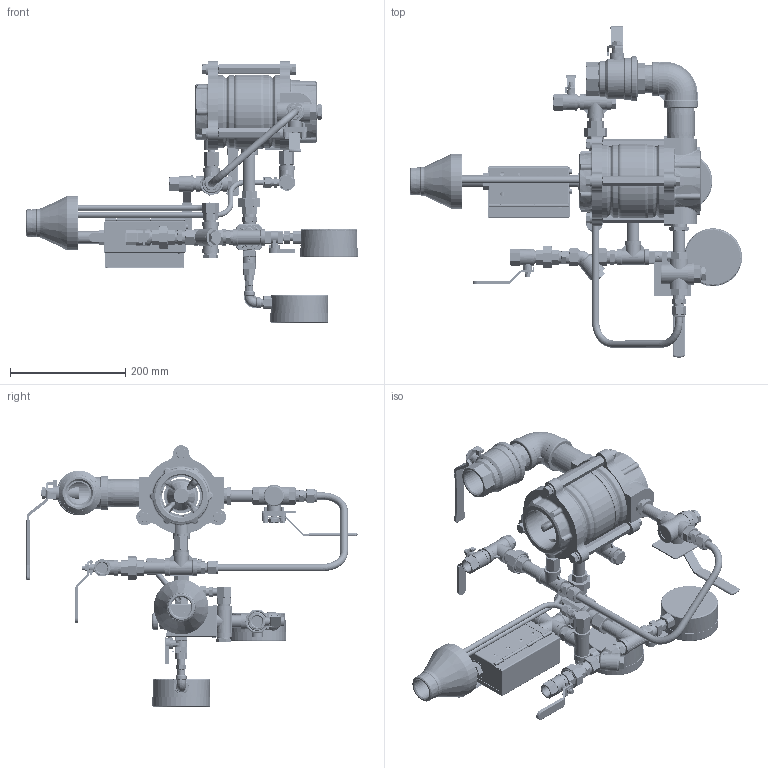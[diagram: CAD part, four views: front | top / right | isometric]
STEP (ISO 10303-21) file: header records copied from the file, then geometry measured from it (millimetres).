
FILE_DESCRIPTION(/* description */ (''),/* implementation_level */ '2;1');
FILE_NAME(/* name */ 'Z:\STANDARD SYSTEM\700DX-04A01\STP\711DX-04A01 FM Trim 2_5in STEP.stp',/* time_stamp */ '2022-10-26T14:57:35+03:00',/* author */ ('alex'),/* organization */ (''),/* preprocessor_version */ 'ST-DEVELOPER v16.13',/* originating_system */ 'Autodesk Inventor 2018',/* authorisation */ '');
FILE_SCHEMA (('AUTOMOTIVE_DESIGN { 1 0 10303 214 3 1 1 }'));
Length unit declared in the file: inch
Products named in the file (118): 711DX-04A01 FM Trim 2_5in STEP; 351-08-08; Union FM 12 SS316; Half Union 12MM SS; Fitting TF 12NPTxOD12; TFFitting Body 12; Back Ferrule 12; Front Ferrule 12; Fitting Nut 12; 5423-7; Bushing 34Mx12F SS316; 347-08-05; BODY_347-08-05; HANDLE_347-08-05; COVER_347-08-10; DIN 934 - M10; ISO 4017 - M5 x 25; DIN 934 - M5; HANDLE_LOCK_347-08-05; Nipple 12x14 L51 SS; 375-08; 5076; 5074; 5215; BALL; 5078; 5073; 5075; ISO 4762 - M5 x 16; 4095; 5214; 31-08-01; BODY; COVER_31-08-01; 373-08; 4948; Cross 12 SS; 351-08-08_1; 351-08-02_BODY L=67mm; 351-08-01_HANDLE L=58mm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
Assembly tree (172 placements, depth 5):
  711DX-04A01 FM Trim 2_5in STEP
    Plug 12 SS  x5
    Nipple 12x14 L51 SS  x2
    Tee 12 SS  x5
    Nipple 12x2.5 SS  x3
    351-08-08
      351-08-02_BODY L=67mm
      351-08-01_HANDLE L=58mm
      351-08-01
      351-08-02 Cover L=67 mm
    Union FM 12 SS316
      Half Union 12M SS
      Half Union 12MM SS
      Half Union F
    Fitting TF 12NPTxOD12  x2
      TFFitting Body 12
      Back Ferrule 12
      Front Ferrule 12
      Fitting Nut 12
    5423-7
    Bushing 34Mx12F SS316
    347-08-05
      BODY_347-08-05
      HANDLE_347-08-05
      COVER_347-08-10
      DIN 934 - M10
      ISO 4017 - M5 x 25  x2
      DIN 934 - M5  x2
      HANDLE_LOCK_347-08-05  x2
    373-08  x2
      4948
    Fitting TF 14NPTx38  x2
      TFFitting Body 38
      Back Ferrule 38
      Fitting Nut 38
      Front Ferrule 38
    375-08
      5076
      5074
      5215
      BALL
      5078
      5073
      5075
      ISO 4762 - M5 x 16  x4
      4095
      5214
    Nipple 12 hex SS  x5
    31-08-01
      BODY
      COVER_31-08-01
    Cross 12 SS
    351-08-08_1
      351-08-02_BODY L=67mm
      351-08-01_HANDLE L=58mm
      351-08-01
      351-08-02 Cover L=67 mm
    Union 12 SS  x2
      Half Union 12M SS
      Half Union 12F SS
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Bounding box: 577.1 x 575.73 x 454.45 mm (x, y, z)
Volume: 3280711.4 mm3; surface area: 1216453.2 mm2
Topology: 158 solids, 160 shells, 4991 faces, 11812 edges, 7349 vertices
Faces by surface type: plane 2356, cone 1046, cylinder 983, bspline 435, torus 158, sphere 13
Full cylindrical faces by diameter (mm): 0.438 x1, 3 x1, 3.242 x2, 4 x14, 4.1 x2, 4.134 x8, 4.2 x4, 4.5 x2, 4.978 x1, 5 x16, 5.2 x4, 5.25 x2, 5.5 x4, 5.8 x5, 6 x2, 6.33 x4, 6.35 x2, 6.4 x4, 6.5 x6, 6.647 x1, 6.88 x2, 7 x9, 7.036 x5, 7.3 x2, 7.5 x2, 7.515 x4, 7.6 x2, 7.715 x4, 8 x5, 8.1 x2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
Entity records: 122018 total; most frequent: CARTESIAN_POINT 39496, ORIENTED_EDGE 15882, DIRECTION 15697, EDGE_CURVE 7933, AXIS2_PLACEMENT_3D 5890, VERTEX_POINT 5292, EDGE_LOOP 4607, LINE 3917
